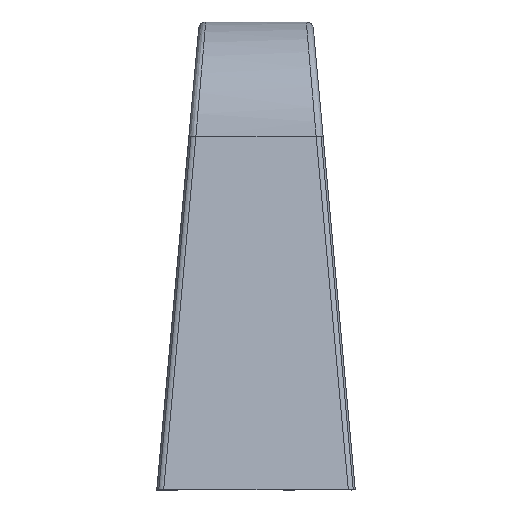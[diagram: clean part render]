
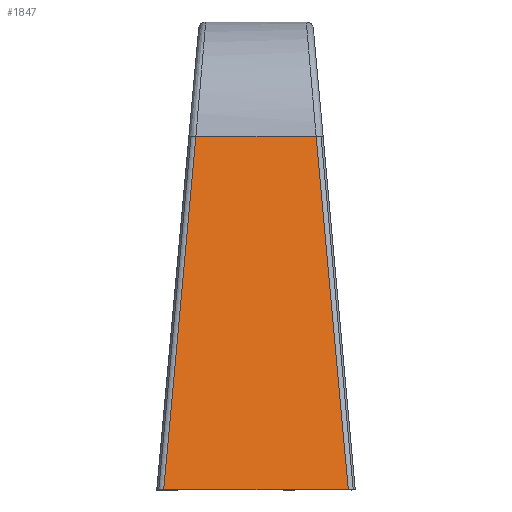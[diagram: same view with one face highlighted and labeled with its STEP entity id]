
A CAD part, left-side view. The second image highlights one B-rep face of the part: STEP entity #1847.
In plain terms, the highlighted planar face has unit normal (-0.981, 0, 0.193).
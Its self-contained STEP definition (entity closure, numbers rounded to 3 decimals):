
#1478=CARTESIAN_POINT('',(-49.5,-6.506,-16.397));
#1479=VERTEX_POINT('',#1478);
#1487=CARTESIAN_POINT('',(-49.5,6.506,-16.562));
#1488=VERTEX_POINT('',#1487);
#1489=CARTESIAN_POINT('',(-49.5,6.506,-16.562));
#1490=DIRECTION('',(0.0,-1.,0.013));
#1491=VECTOR('',#1490,13.013);
#1492=LINE('',#1489,#1491);
#1493=EDGE_CURVE('',#1488,#1479,#1492,.T.);
#1677=CARTESIAN_POINT('',(-44.589,4.556,8.397));
#1678=VERTEX_POINT('',#1677);
#1723=CARTESIAN_POINT('',(-49.5,6.506,-16.562));
#1724=DIRECTION('',(0.192,-0.076,0.978));
#1725=VECTOR('',#1724,25.513);
#1726=LINE('',#1723,#1725);
#1727=EDGE_CURVE('',#1488,#1678,#1726,.T.);
#1812=CARTESIAN_POINT('',(-44.589,-3.924,8.505));
#1813=VERTEX_POINT('',#1812);
#1814=CARTESIAN_POINT('',(-44.589,4.556,8.397));
#1815=DIRECTION('',(0.0,-1.,0.013));
#1816=VECTOR('',#1815,8.48);
#1817=LINE('',#1814,#1816);
#1818=EDGE_CURVE('',#1678,#1813,#1817,.T.);
#1831=CARTESIAN_POINT('',(-49.5,6.999,-16.568));
#1832=DIRECTION('',(-0.981,0.002,0.193));
#1833=DIRECTION('',(-0.193,-0.012,-0.981));
#1834=AXIS2_PLACEMENT_3D('',#1831,#1832,#1833);
#1835=PLANE('',#1834);
#1836=ORIENTED_EDGE('',*,*,#1727,.F.);
#1837=ORIENTED_EDGE('',*,*,#1493,.T.);
#1838=CARTESIAN_POINT('',(-44.589,-3.924,8.505));
#1839=DIRECTION('',(-0.192,-0.101,-0.976));
#1840=VECTOR('',#1839,25.513);
#1841=LINE('',#1838,#1840);
#1842=EDGE_CURVE('',#1813,#1479,#1841,.T.);
#1843=ORIENTED_EDGE('',*,*,#1842,.F.);
#1844=ORIENTED_EDGE('',*,*,#1818,.F.);
#1845=EDGE_LOOP('',(#1836,#1837,#1843,#1844));
#1846=FACE_OUTER_BOUND('',#1845,.T.);
#1847=ADVANCED_FACE('',(#1846),#1835,.T.);
